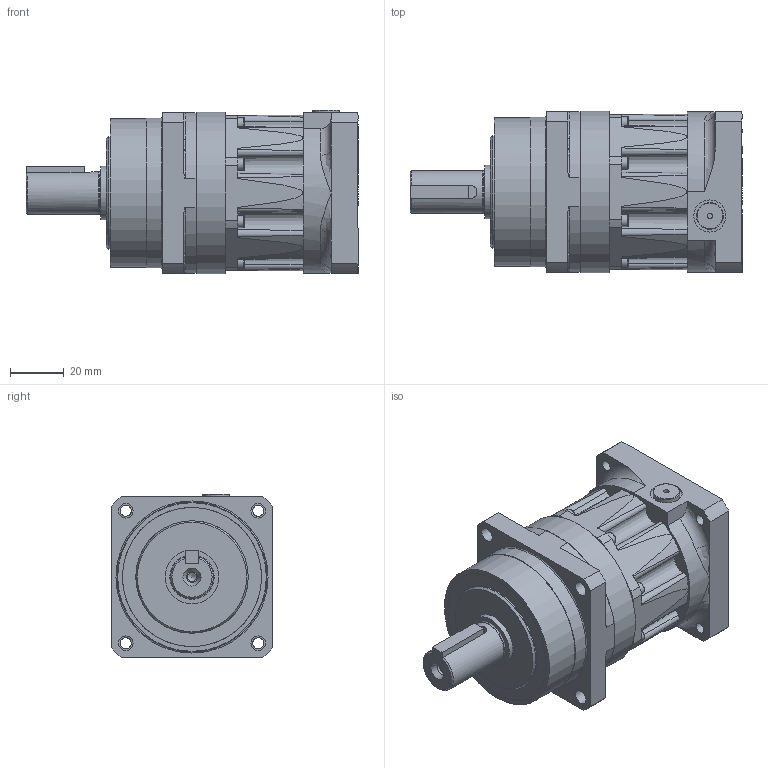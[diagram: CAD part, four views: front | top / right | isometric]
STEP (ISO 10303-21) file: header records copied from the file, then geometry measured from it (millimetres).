
FILE_DESCRIPTION(/* description */ ('ANFX-P110W-2-2R'),/* implementation_level */ '2;1');
FILE_NAME(/* name */ 'C:\Users\ADMINI~1\AppData\Local\Temp\MM581883_ANFX-P110W-2-2R.stp',/* time_stamp */ '2018-06-20T09:24:45+02:00',/* author */ ('Max'),/* organization */ (''),/* preprocessor_version */ 'ST-DEVELOPER v17',/* originating_system */ 'Autodesk Inventor 2018',/* authorisation */ '');
FILE_SCHEMA (('AUTOMOTIVE_DESIGN { 1 0 10303 214 3 1 1 }'));
Length unit declared in the file: millimetre
Products named in the file (18): MM581710; MMBG0004130; MMCL239LG; MMCL433LG; MAW8353G; MAX4839G; M233C0505022NG; MMBG0004131; MMCH473LG; MMAP6508G; 202471; MMAP3153G; 202119; M009M2,5R020NG; 530N20357---G; 135352; MAW8349G; 211554
Assembly tree (27 placements, depth 3):
  MM581710
    MMBG0004130
      MMCL239LG
      MMCL433LG
      MAW8353G
      MAX4839G
      M233C0505022NG
    MMBG0004131
      MMCH473LG
      MMAP6508G
      202471
      MMAP3153G
      202119
      M009M2,5R020NG  x8
      530N20357---G
    135352
    MAW8349G
    211554  x4
Bounding box: 124 x 60.5 x 61.25 mm (x, y, z)
Volume: 166779.8 mm3; surface area: 91720.5 mm2
Topology: 94 solids, 95 shells, 657 faces, 1886 edges, 1324 vertices
Faces by surface type: plane 244, cylinder 179, cone 105, sphere 68, torus 55, bspline 6
Full cylindrical faces by diameter (mm): 2 x1, 2.013 x8, 2.459 x1, 2.5 x8, 2.9 x8, 3 x8, 3.242 x10, 4 x5, 4.134 x4, 4.3 x1, 4.5 x13, 5.5 x4, 7 x5, 7.8 x1, 8 x5, 8.2 x1, 8.4 x1, 10 x1, 12 x1, 14.5 x1, 16 x1, 19 x1, 19.4 x1, 19.6 x1, 20 x3, 20.5 x1, 22 x1, 25.172 x2, 27.5 x4, 28 x1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
Entity records: 18681 total; most frequent: CARTESIAN_POINT 4240, DIRECTION 3143, ORIENTED_EDGE 2628, AXIS2_PLACEMENT_3D 1378, EDGE_CURVE 1314, VERTEX_POINT 1034, CIRCLE 832, EDGE_LOOP 648
